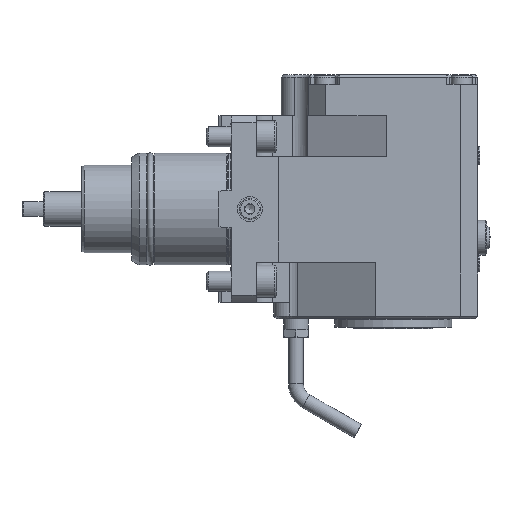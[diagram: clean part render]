
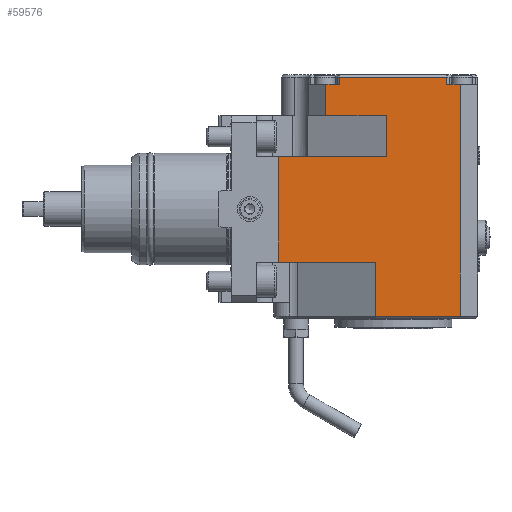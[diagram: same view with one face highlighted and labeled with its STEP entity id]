
A CAD part, front view. The second image highlights one B-rep face of the part: STEP entity #59576.
In plain terms, the highlighted planar face has unit normal (0, -1, 0).
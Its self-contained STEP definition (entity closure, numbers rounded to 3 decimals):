
#22257=VECTOR('',#37123,1.);
#22260=VECTOR('',#37128,1.);
#22262=VECTOR('',#37132,1.);
#22263=VECTOR('',#37133,1.);
#22264=VECTOR('',#37134,1.);
#22265=VECTOR('',#37135,1.);
#22266=VECTOR('',#37136,1.);
#22267=VECTOR('',#37137,1.);
#22268=VECTOR('',#37138,1.);
#22269=VECTOR('',#37139,1.);
#22270=VECTOR('',#37140,1.);
#22271=VECTOR('',#37141,1.);
#22272=VECTOR('',#37142,1.);
#22273=VECTOR('',#37143,1.);
#23471=LINE('',#44361,#22257);
#23474=LINE('',#44367,#22260);
#23476=LINE('',#44372,#22262);
#23477=LINE('',#44374,#22263);
#23478=LINE('',#44376,#22264);
#23479=LINE('',#44378,#22265);
#23480=LINE('',#44380,#22266);
#23481=LINE('',#44382,#22267);
#23482=LINE('',#44384,#22268);
#23483=LINE('',#44386,#22269);
#23484=LINE('',#44388,#22270);
#23485=LINE('',#44389,#22271);
#23486=LINE('',#44391,#22272);
#23487=LINE('',#44392,#22273);
#24638=PLANE('',#58040);
#25970=ORIENTED_EDGE('',*,*,#32370,.F.);
#25971=ORIENTED_EDGE('',*,*,#32371,.F.);
#25972=ORIENTED_EDGE('',*,*,#32372,.F.);
#25973=ORIENTED_EDGE('',*,*,#32373,.F.);
#25974=ORIENTED_EDGE('',*,*,#32374,.F.);
#25975=ORIENTED_EDGE('',*,*,#32375,.T.);
#25976=ORIENTED_EDGE('',*,*,#32376,.F.);
#25977=ORIENTED_EDGE('',*,*,#32377,.F.);
#25978=ORIENTED_EDGE('',*,*,#32378,.F.);
#25979=ORIENTED_EDGE('',*,*,#32379,.F.);
#25980=ORIENTED_EDGE('',*,*,#32365,.F.);
#25981=ORIENTED_EDGE('',*,*,#32368,.F.);
#25982=ORIENTED_EDGE('',*,*,#32380,.T.);
#25983=ORIENTED_EDGE('',*,*,#32381,.F.);
#30847=VERTEX_POINT('',#44358);
#30848=VERTEX_POINT('',#44360);
#30850=VERTEX_POINT('',#44366);
#30851=VERTEX_POINT('',#44370);
#30852=VERTEX_POINT('',#44371);
#30853=VERTEX_POINT('',#44373);
#30854=VERTEX_POINT('',#44375);
#30855=VERTEX_POINT('',#44377);
#30856=VERTEX_POINT('',#44379);
#30857=VERTEX_POINT('',#44381);
#30858=VERTEX_POINT('',#44383);
#30859=VERTEX_POINT('',#44385);
#30860=VERTEX_POINT('',#44387);
#30861=VERTEX_POINT('',#44390);
#32365=EDGE_CURVE('',#30847,#30848,#23471,.T.);
#32368=EDGE_CURVE('',#30850,#30847,#23474,.T.);
#32370=EDGE_CURVE('',#30851,#30852,#23476,.T.);
#32371=EDGE_CURVE('',#30853,#30851,#23477,.T.);
#32372=EDGE_CURVE('',#30854,#30853,#23478,.T.);
#32373=EDGE_CURVE('',#30855,#30854,#23479,.T.);
#32374=EDGE_CURVE('',#30856,#30855,#23480,.T.);
#32375=EDGE_CURVE('',#30856,#30857,#23481,.T.);
#32376=EDGE_CURVE('',#30858,#30857,#23482,.T.);
#32377=EDGE_CURVE('',#30859,#30858,#23483,.T.);
#32378=EDGE_CURVE('',#30860,#30859,#23484,.T.);
#32379=EDGE_CURVE('',#30848,#30860,#23485,.T.);
#32380=EDGE_CURVE('',#30850,#30861,#23486,.T.);
#32381=EDGE_CURVE('',#30852,#30861,#23487,.T.);
#34488=EDGE_LOOP('',(#25970,#25971,#25972,#25973,#25974,#25975,#25976,#25977,
#25978,#25979,#25980,#25981,#25982,#25983));
#35700=FACE_BOUND('',#34488,.T.);
#37123=DIRECTION('',(-38.909,0.,0.));
#37128=DIRECTION('',(0.,0.,21.7));
#37130=DIRECTION('',(0.,-1.,0.));
#37131=DIRECTION('',(-1.,0.,0.));
#37132=DIRECTION('',(5.5,0.,0.));
#37133=DIRECTION('',(0.,0.,-3.));
#37134=DIRECTION('',(43.,0.,0.));
#37135=DIRECTION('',(0.,0.,3.));
#37136=DIRECTION('',(5.5,0.,0.));
#37137=DIRECTION('',(0.,0.,-12.5));
#37138=DIRECTION('',(-24.195,0.,0.));
#37139=DIRECTION('',(0.,0.,16.5));
#37140=DIRECTION('',(43.195,0.,0.));
#37141=DIRECTION('',(0.,0.,42.3));
#37142=DIRECTION('',(34.091,0.,0.));
#37143=DIRECTION('',(0.,0.,-93.));
#44358=CARTESIAN_POINT('',(57.909,-34.,-21.3));
#44360=CARTESIAN_POINT('',(19.,-34.,-21.3));
#44361=CARTESIAN_POINT('',(57.909,-34.,-21.3));
#44366=CARTESIAN_POINT('',(57.909,-34.,-43.));
#44367=CARTESIAN_POINT('',(57.909,-34.,-43.));
#44369=CARTESIAN_POINT('',(92.,-34.,54.));
#44370=CARTESIAN_POINT('',(86.5,-34.,50.));
#44371=CARTESIAN_POINT('',(92.,-34.,50.));
#44372=CARTESIAN_POINT('',(86.5,-34.,50.));
#44373=CARTESIAN_POINT('',(86.5,-34.,53.));
#44374=CARTESIAN_POINT('',(86.5,-34.,53.));
#44375=CARTESIAN_POINT('',(43.5,-34.,53.));
#44376=CARTESIAN_POINT('',(43.5,-34.,53.));
#44377=CARTESIAN_POINT('',(43.5,-34.,50.));
#44378=CARTESIAN_POINT('',(43.5,-34.,50.));
#44379=CARTESIAN_POINT('',(38.,-34.,50.));
#44380=CARTESIAN_POINT('',(38.,-34.,50.));
#44381=CARTESIAN_POINT('',(38.,-34.,37.5));
#44382=CARTESIAN_POINT('',(38.,-34.,50.));
#44383=CARTESIAN_POINT('',(62.195,-34.,37.5));
#44384=CARTESIAN_POINT('',(62.195,-34.,37.5));
#44385=CARTESIAN_POINT('',(62.195,-34.,21.));
#44386=CARTESIAN_POINT('',(62.195,-34.,21.));
#44387=CARTESIAN_POINT('',(19.,-34.,21.));
#44388=CARTESIAN_POINT('',(19.,-34.,21.));
#44389=CARTESIAN_POINT('',(19.,-34.,-21.3));
#44390=CARTESIAN_POINT('',(92.,-34.,-43.));
#44391=CARTESIAN_POINT('',(57.909,-34.,-43.));
#44392=CARTESIAN_POINT('',(92.,-34.,50.));
#58040=AXIS2_PLACEMENT_3D('',#44369,#37130,#37131);
#59576=ADVANCED_FACE('',(#35700),#24638,.T.);
